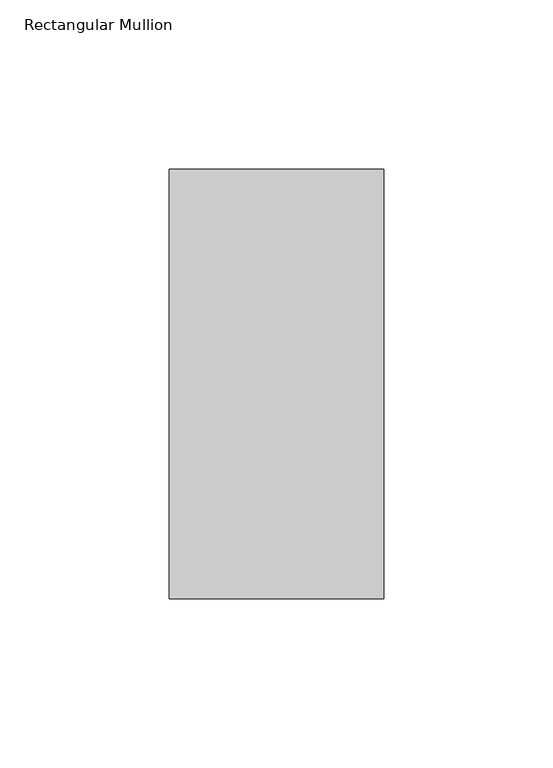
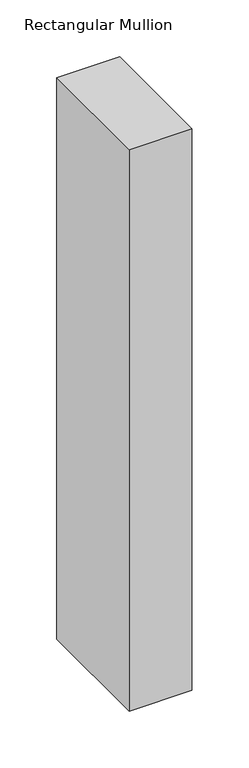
"""IFC4 building model written with IfcOpenShell, lengths in millimetres: member geometry, Rectangular Mullion : UniQuad-Quad Frame - Hartford Green #84."""

from ifc_helpers import new_model, si_unit, frame, origin, place, context, project, spatial, polyline, outline, extrude, source, transform, mapped, element, save


def rectangular_mullion_208d5230(model_context):
    return source(origin(), model_context, "Body", "SweptSolid", [
        extrude(outline(polyline([(0.0, 63.5), (0.0, -63.5), (-63.5, -63.5), (-63.5, 63.5), (0.0, 63.5)])), frame((0.0, 0.0, -601.9601563), z_axis=(0.0, 0.0, 1.0), x_axis=(1.0, 0.0, 0.0)), (0.0, 0.0, 1.0), 601.9601563),
    ])


if __name__ == "__main__":
    model = new_model("IFC4")
    model_context = context("Model", 3, world=origin())
    ifc_project = project(units=[si_unit("LENGTHUNIT", "METRE", prefix="MILLI")], contexts=[model_context])
    site = spatial("IfcSite", under=ifc_project)
    building = spatial("IfcBuilding", under=site)
    placement = place(None, origin())
    rectangular_mullion_shape = rectangular_mullion_208d5230(model_context)
    element("IfcMember", 1, ObjectType="Rectangular Mullion : UniQuad-Quad Frame - Hartford Green #84", at=placement, inside=building, context=model_context, shape_type="MappedRepresentation", body=[
        mapped(rectangular_mullion_shape, transform((0.0, 0.0, 0.0), x_axis=(1.0, 0.0, 0.0), y_axis=(0.0, 1.0, 0.0), z_axis=(0.0, 0.0, 1.0))),
    ])
    save(model, "model.ifc")
